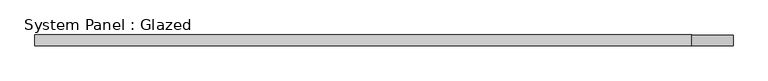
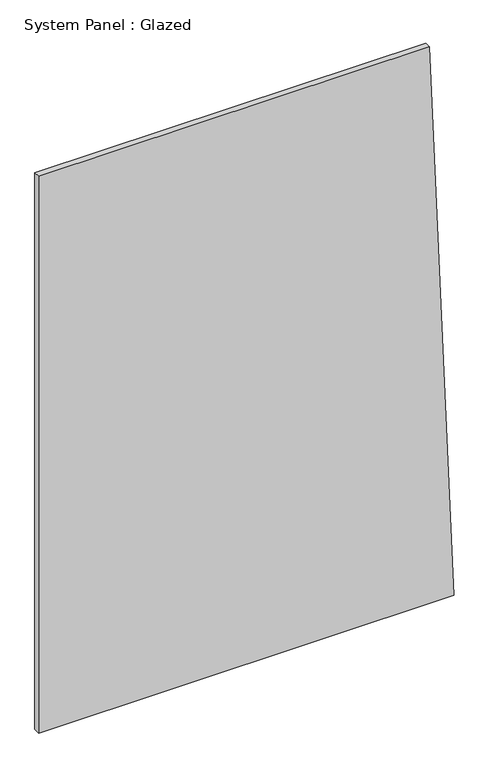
"""IFC4 building model written with IfcOpenShell, lengths in millimetres: plate geometry, System Panel : Glazed."""

from ifc_helpers import new_model, si_unit, frame, origin, place, context, project, spatial, polyline, outline, extrude, source, transform, mapped, element, save


def system_panel_glazed_411fb0ca(model_context):
    return source(origin(), model_context, "Body", "SweptSolid", [
        extrude(outline(polyline([(0.0, -827.5976314), (0.0, 827.5976314), (2343.15, 729.9976228), (2343.15, -827.5976314), (0.0, -827.5976314)])), frame((0.0, 19.05, 0.0), z_axis=(0.0, 1.0, 0.0), x_axis=(0.0, 0.0, 1.0)), (0.0, 0.0, 1.0), 25.4),
    ])


if __name__ == "__main__":
    model = new_model("IFC4")
    model_context = context("Model", 3, world=origin())
    ifc_project = project(units=[si_unit("LENGTHUNIT", "METRE", prefix="MILLI")], contexts=[model_context])
    site = spatial("IfcSite", under=ifc_project)
    building = spatial("IfcBuilding", under=site)
    placement = place(None, origin())
    system_panel_glazed_shape = system_panel_glazed_411fb0ca(model_context)
    element("IfcPlate", 1, ObjectType="System Panel : Glazed", at=placement, inside=building, context=model_context, shape_type="MappedRepresentation", body=[
        mapped(system_panel_glazed_shape, transform((0.0, 0.0, 0.0), x_axis=(1.0, 0.0, 0.0), y_axis=(0.0, 1.0, 0.0), z_axis=(0.0, 0.0, 1.0))),
    ])
    save(model, "model.ifc")
